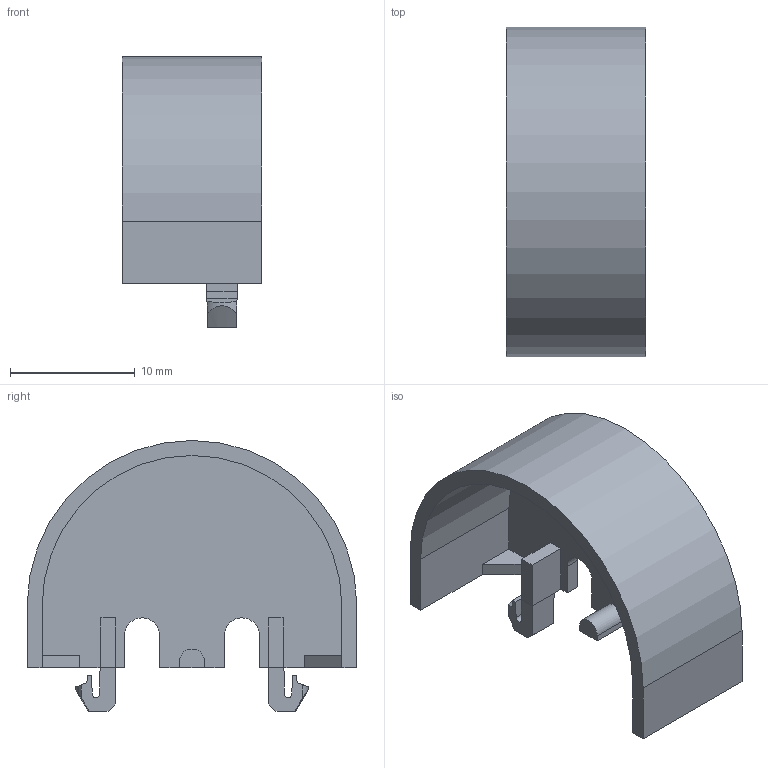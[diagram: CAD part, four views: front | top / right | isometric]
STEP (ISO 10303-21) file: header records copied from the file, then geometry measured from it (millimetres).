
FILE_DESCRIPTION(('CAx-IF Rec.Pracs.---Model Styling and Organization---1.2---2011-12-15','CAx-IF Rec.Pracs.---Geometric and Assembly Validation Properties---4.1---2014-06-16','CAx-IF Rec.Pracs.---PMI Polyline Presentation---2.0---2013-05-24'),'2;1');
FILE_NAME('01WY91PY07.stp','2016-12-08T12:44:12+01:00',(''),(''),'STEP Interface 4.0 Sp1 by CT CoreTechnologie','3D_Evolution4.0 Sp1 by CT CoreTechnologie','');
FILE_SCHEMA(('AP203_CONFIGURATION_CONTROLLED_3D_DESIGN_OF_MECHANICAL_PARTS_AND_ASSEMBLIES_MIM_LF'));
Length unit declared in the file: metre
Products named in the file (1): 01W-91P-07
Bounding box: 11.2 x 26.4 x 21.7 mm (x, y, z)
Volume: 1127 mm3; surface area: 2099.5 mm2
Topology: 1 solids, 1 shells, 103 faces, 271 edges, 178 vertices
Faces by surface type: plane 78, cylinder 21, bspline 4
Entity records: 4189 total; most frequent: CARTESIAN_POINT 785, ORIENTED_EDGE 542, DIRECTION 507, EDGE_CURVE 271, VECTOR 223, LINE 223, VERTEX_POINT 178, AXIS2_PLACEMENT_3D 142
